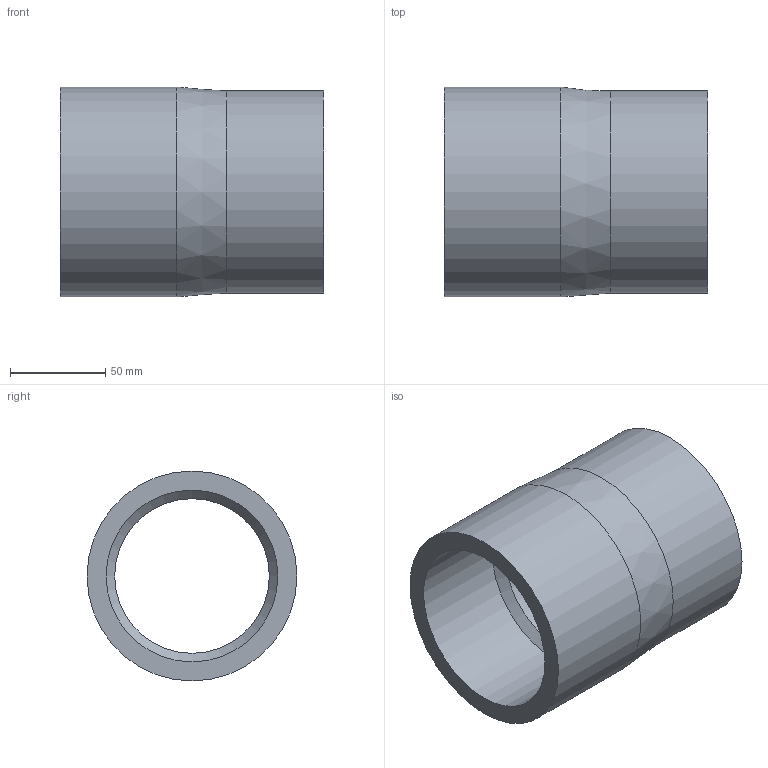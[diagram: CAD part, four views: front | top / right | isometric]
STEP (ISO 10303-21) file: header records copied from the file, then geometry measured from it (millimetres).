
FILE_DESCRIPTION(/* description */ ('PLASSON REDUCING SOCKET M.F.110(90)90 CEMENTED'),/* implementation_level */ '2;1');
FILE_NAME(/* name */ 'C:\Dropbox\KIMPROJECTS-Inventor\99-16-3568-Processing\PVC Catalog 2017\050200\050200110090.ipt.stp',/* time_stamp */ '2017-12-07T15:52:52+02:00',/* author */ ('KIM'),/* organization */ (''),/* preprocessor_version */ 'ST-DEVELOPER v15.6',/* originating_system */ 'Autodesk Inventor 2015',/* authorisation */ '');
FILE_SCHEMA (('AUTOMOTIVE_DESIGN { 1 0 10303 214 3 1 1 }'));
Length unit declared in the file: millimetre
Products named in the file (1): 050200110090
Bounding box: 138 x 110 x 110 mm (x, y, z)
Volume: 430898.2 mm3; surface area: 92289.5 mm2
Topology: 1 solids, 1 shells, 10 faces, 17 edges, 10 vertices
Faces by surface type: cylinder 5, plane 3, cone 2
Full cylindrical faces by diameter (mm): 81 x1, 90 x2, 106 x1, 110 x1
Entity records: 232 total; most frequent: DIRECTION 42, CARTESIAN_POINT 31, AXIS2_PLACEMENT_3D 21, EDGE_LOOP 20, ORIENTED_EDGE 20, FACE_BOUND 10, FACE_OUTER_BOUND 10, CIRCLE 10
